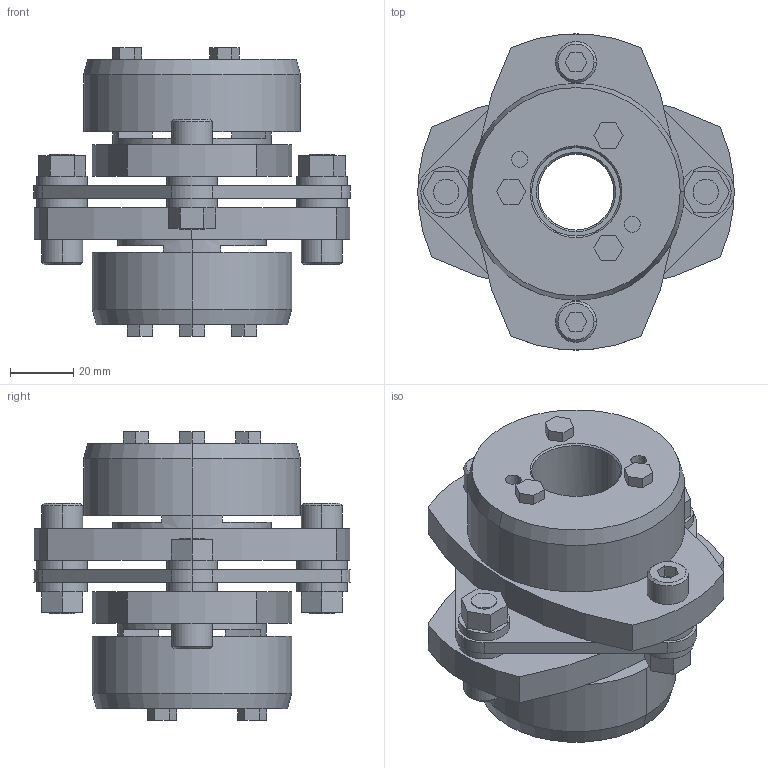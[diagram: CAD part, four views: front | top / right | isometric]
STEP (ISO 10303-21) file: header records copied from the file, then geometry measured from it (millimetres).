
FILE_DESCRIPTION((''),'2;1');
FILE_NAME('LCS-100T7-24×28.stp','2015-11-02T07:49:12',(''),(''),'AutoCAD STEP 2000i','AutoCAD 2000i',', , ');
FILE_SCHEMA(('CONFIG_CONTROL_DESIGN'));
Length unit declared in the file: millimetre
Products named in the file (8): LCS-100T7-25×28; 忣兜1; LC100T7-T028-1; LC100T7-T025-1; LC100T7-T025; LC100T7-T022-1; LC100T7-T022; LCS100-ITA
Assembly tree (7 placements, depth 2):
  LCS-100T7-25×28
    忣兜1
    LC100T7-T028-1
    LC100T7-T025-1
    LC100T7-T025
    LC100T7-T022-1
    LC100T7-T022
    LCS100-ITA
Bounding box: 100 x 99.93 x 91 mm (x, y, z)
Volume: 263900.1 mm3; surface area: 64119.1 mm2
Topology: 1 solids, 1 shells, 232 faces, 568 edges, 372 vertices
Faces by surface type: plane 132, cylinder 80, cone 20
Entity records: 7077 total; most frequent: DIRECTION 1244, CARTESIAN_POINT 1180, ORIENTED_EDGE 1136, EDGE_CURVE 568, AXIS2_PLACEMENT_3D 436, VERTEX_POINT 372, VECTOR 372, LINE 372
